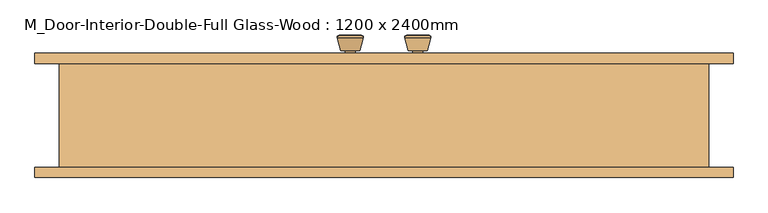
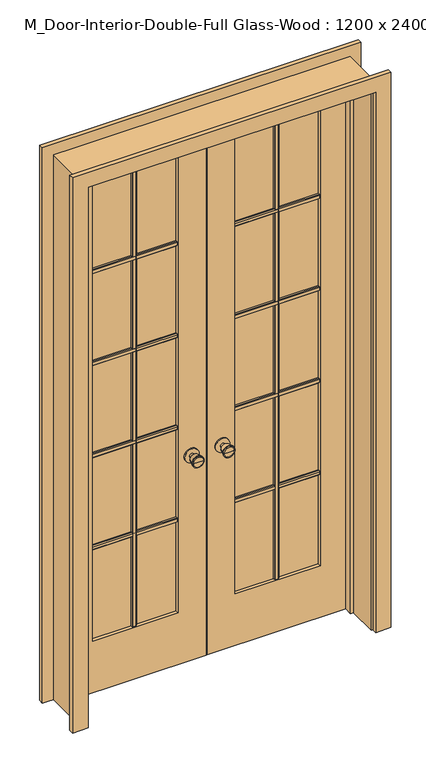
"""IFC4 building model written with IfcOpenShell, lengths in millimetres: door geometry, M_Door-Interior-Double-Full Glass-Wood : 1200 x 2400mm."""

from ifc_helpers import new_model, si_unit, point, frame, frame_2d, origin, place, context, project, spatial, polyline, circle_curve, trimmed, segment, composite_curve, outline, extrude, faceted_brep, source, transform, mapped, element, save
from ifc_brep_helpers import plane_surface, cylinder_surface, revolved_surface, advanced_brep


def m_door_interior_double_full_glass_wood_1200_x_2400mm_8371465c(model_context):
    return source(origin(), model_context, "Body", "SolidModel", [
        advanced_brep(
        [(-65.0, 102.825, 914.4), (-75.0, 102.825, 914.4), (-55.0, 102.825, 914.4), (-85.4758676, 151.825, 914.4), (-65.0, 151.825, 914.4), (-44.5241324, 151.825, 914.4), (-90.0, 149.9971319, 914.4), (-40.0, 149.9971319, 914.4), (-90.0, 146.5334537, 914.4), (-40.0, 146.5334537, 914.4), (-83.636236, 121.825, 914.4), (-46.363764, 121.825, 914.4), (-75.0, 121.825, 914.4), (-55.0, 121.825, 914.4)],
        [
            (0, 1),
            (1, 2, circle_curve(frame((-65.0, 102.825, 914.4), z_axis=(0.0, -1.0, 0.0), x_axis=(1.0, 0.0, 0.0)), 10.0)),
            (2, 0),
            (2, 1, circle_curve(frame((-65.0, 102.825, 914.4), z_axis=(0.0, -1.0, 0.0), x_axis=(1.0, 0.0, 0.0)), 10.0)),
            (3, 4),
            (4, 5),
            (5, 3, circle_curve(frame((-65.0, 151.825, 914.4), z_axis=(0.0, 1.0, 0.0), x_axis=(1.0, 0.0, 0.0)), 20.4758676)),
            (3, 5, circle_curve(frame((-65.0, 151.825, 914.4), z_axis=(0.0, 1.0, 0.0), x_axis=(1.0, 0.0, 0.0)), 20.4758676)),
            (6, 3),
            (5, 7),
            (7, 6, circle_curve(frame((-65.0, 149.9971319, 914.4), z_axis=(0.0, 1.0, 0.0), x_axis=(1.0, 0.0, 0.0)), 25.0)),
            (6, 7, circle_curve(frame((-65.0, 149.9971319, 914.4), z_axis=(0.0, 1.0, 0.0), x_axis=(1.0, 0.0, 0.0)), 25.0)),
            (8, 6),
            (7, 9),
            (9, 8, circle_curve(frame((-65.0, 146.5334537, 914.4), z_axis=(0.0, 1.0, 0.0), x_axis=(1.0, 0.0, 0.0)), 25.0)),
            (8, 9, circle_curve(frame((-65.0, 146.5334537, 914.4), z_axis=(0.0, 1.0, 0.0), x_axis=(1.0, 0.0, 0.0)), 25.0)),
            (10, 8),
            (9, 11),
            (11, 10, circle_curve(frame((-65.0, 121.825, 914.4), z_axis=(0.0, 1.0, 0.0), x_axis=(1.0, 0.0, 0.0)), 18.636236)),
            (10, 11, circle_curve(frame((-65.0, 121.825, 914.4), z_axis=(0.0, 1.0, 0.0), x_axis=(1.0, 0.0, 0.0)), 18.636236)),
            (12, 10),
            (11, 13),
            (13, 12, circle_curve(frame((-65.0, 121.825, 914.4), z_axis=(0.0, 1.0, 0.0), x_axis=(1.0, 0.0, 0.0)), 10.0)),
            (12, 13, circle_curve(frame((-65.0, 121.825, 914.4), z_axis=(0.0, 1.0, 0.0), x_axis=(1.0, 0.0, 0.0)), 10.0)),
            (1, 12),
            (13, 2),
        ],
        [
            plane_surface(frame((-65.0, 102.825, 914.4), z_axis=(0.0, -1.0, 0.0), x_axis=(1.0, 0.0, 0.0))),
            plane_surface(frame((-65.0, 151.825, 914.4), z_axis=(0.0, 1.0, 0.0), x_axis=(1.0, 0.0, 0.0))),
            revolved_surface(polyline([(-44.5241324, 151.825, 914.4), (-40.0, 149.9971319, 914.4)]), (-65.0, 102.825, 914.4), (0.0, -1.0, 0.0)),
            cylinder_surface(frame((-65.0, 102.825, 914.4), z_axis=(0.0, -1.0, 0.0), x_axis=(1.0, 0.0, 0.0)), 25.0),
            revolved_surface(polyline([(-40.0, 146.5334537, 914.4), (-46.363764, 121.825, 914.4)]), (-65.0, 102.825, 914.4), (0.0, -1.0, 0.0)),
            plane_surface(frame((-65.0, 121.825, 914.4), z_axis=(0.0, -1.0, 0.0), x_axis=(1.0, 0.0, 0.0))),
            cylinder_surface(frame((-65.0, 102.825, 914.4), z_axis=(0.0, -1.0, 0.0), x_axis=(1.0, 0.0, 0.0)), 10.0),
        ],
        [
            (0, [[1, 2, 3]]),
            (0, [[-3, 4, -1]]),
            (1, [[5, 6, 7]]),
            (1, [[-6, -5, 8]]),
            (2, [[9, -7, 10, 11]]),
            (2, [[-10, -8, -9, 12]]),
            (3, [[13, -11, 14, 15]]),
            (3, [[-14, -12, -13, 16]]),
            (4, [[17, -15, 18, 19]]),
            (4, [[-18, -16, -17, 20]]),
            (5, [[21, -19, 22, 23]]),
            (5, [[-22, -20, -21, 24]]),
            (6, [[25, -23, 26, -2]]),
            (6, [[-26, -24, -25, -4]]),
        ],
    ),
        extrude(outline(composite_curve([segment(trimmed(circle_curve(frame_2d((914.4, -65.0)), 30.0), [point((914.4, -35.0))], [point((914.4, -95.0))], False, "CARTESIAN"), True, "CONTINUOUS"), segment(trimmed(circle_curve(frame_2d((914.4, -65.0)), 30.0), [point((914.4, -95.0))], [point((914.4, -35.0))], False, "CARTESIAN"), True, "CONTINUOUS")], self_intersect=False)), frame((0.0, 96.825, 0.0), z_axis=(0.0, 1.0, 0.0), x_axis=(0.0, 0.0, 1.0)), (0.0, 0.0, 1.0), 6.0),
        advanced_brep(
        [(-65.0, 55.825, 914.4), (-55.0, 55.825, 914.4), (-75.0, 55.825, 914.4), (-85.4758676, 6.825, 914.4), (-44.5241324, 6.825, 914.4), (-65.0, 6.825, 914.4), (-90.0, 8.6528681, 914.4), (-40.0, 8.6528681, 914.4), (-90.0, 12.1165463, 914.4), (-40.0, 12.1165463, 914.4), (-83.636236, 36.825, 914.4), (-46.363764, 36.825, 914.4), (-75.0, 36.825, 914.4), (-55.0, 36.825, 914.4)],
        [
            (0, 1),
            (1, 2, circle_curve(frame((-65.0, 55.825, 914.4), z_axis=(0.0, 1.0, 0.0), x_axis=(1.0, 0.0, 0.0)), 10.0)),
            (2, 0),
            (2, 1, circle_curve(frame((-65.0, 55.825, 914.4), z_axis=(0.0, 1.0, 0.0), x_axis=(1.0, 0.0, 0.0)), 10.0)),
            (3, 4, circle_curve(frame((-65.0, 6.825, 914.4), z_axis=(0.0, -1.0, 0.0), x_axis=(1.0, 0.0, 0.0)), 20.4758676)),
            (4, 5),
            (5, 3),
            (4, 3, circle_curve(frame((-65.0, 6.825, 914.4), z_axis=(0.0, -1.0, 0.0), x_axis=(1.0, 0.0, 0.0)), 20.4758676)),
            (6, 7, circle_curve(frame((-65.0, 8.6528681, 914.4), z_axis=(0.0, -1.0, 0.0), x_axis=(1.0, 0.0, 0.0)), 25.0)),
            (7, 4),
            (3, 6),
            (7, 6, circle_curve(frame((-65.0, 8.6528681, 914.4), z_axis=(0.0, -1.0, 0.0), x_axis=(1.0, 0.0, 0.0)), 25.0)),
            (8, 9, circle_curve(frame((-65.0, 12.1165463, 914.4), z_axis=(0.0, -1.0, 0.0), x_axis=(1.0, 0.0, 0.0)), 25.0)),
            (9, 7),
            (6, 8),
            (9, 8, circle_curve(frame((-65.0, 12.1165463, 914.4), z_axis=(0.0, -1.0, 0.0), x_axis=(1.0, 0.0, 0.0)), 25.0)),
            (10, 11, circle_curve(frame((-65.0, 36.825, 914.4), z_axis=(0.0, -1.0, 0.0), x_axis=(1.0, 0.0, 0.0)), 18.636236)),
            (11, 9),
            (8, 10),
            (11, 10, circle_curve(frame((-65.0, 36.825, 914.4), z_axis=(0.0, -1.0, 0.0), x_axis=(1.0, 0.0, 0.0)), 18.636236)),
            (12, 13, circle_curve(frame((-65.0, 36.825, 914.4), z_axis=(0.0, -1.0, 0.0), x_axis=(1.0, 0.0, 0.0)), 10.0)),
            (13, 11),
            (10, 12),
            (13, 12, circle_curve(frame((-65.0, 36.825, 914.4), z_axis=(0.0, -1.0, 0.0), x_axis=(1.0, 0.0, 0.0)), 10.0)),
            (1, 13),
            (12, 2),
        ],
        [
            plane_surface(frame((-65.0, 55.825, 914.4), z_axis=(0.0, 1.0, 0.0), x_axis=(1.0, 0.0, 0.0))),
            plane_surface(frame((-65.0, 6.825, 914.4), z_axis=(0.0, -1.0, 0.0), x_axis=(1.0, 0.0, 0.0))),
            revolved_surface(polyline([(-44.5241324, 6.825, 914.4), (-40.0, 8.6528681, 914.4)]), (-65.0, 55.825, 914.4), (0.0, 1.0, 0.0)),
            cylinder_surface(frame((-65.0, 55.825, 914.4), z_axis=(0.0, 1.0, 0.0), x_axis=(1.0, 0.0, 0.0)), 25.0),
            revolved_surface(polyline([(-40.0, 12.1165463, 914.4), (-46.363764, 36.825, 914.4)]), (-65.0, 55.825, 914.4), (0.0, 1.0, 0.0)),
            plane_surface(frame((-65.0, 36.825, 914.4), z_axis=(0.0, 1.0, 0.0), x_axis=(1.0, 0.0, 0.0))),
            cylinder_surface(frame((-65.0, 55.825, 914.4), z_axis=(0.0, 1.0, 0.0), x_axis=(1.0, 0.0, 0.0)), 10.0),
        ],
        [
            (0, [[1, 2, 3]]),
            (0, [[-3, 4, -1]]),
            (1, [[5, 6, 7]]),
            (1, [[8, -7, -6]]),
            (2, [[9, 10, -5, 11]]),
            (2, [[12, -11, -8, -10]]),
            (3, [[13, 14, -9, 15]]),
            (3, [[16, -15, -12, -14]]),
            (4, [[17, 18, -13, 19]]),
            (4, [[20, -19, -16, -18]]),
            (5, [[21, 22, -17, 23]]),
            (5, [[24, -23, -20, -22]]),
            (6, [[-2, 25, -21, 26]]),
            (6, [[-4, -26, -24, -25]]),
        ],
    ),
        extrude(outline(composite_curve([segment(trimmed(circle_curve(frame_2d((914.4, -65.0)), 30.0), [point((914.4, -35.0))], [point((914.4, -95.0))], False, "CARTESIAN"), True, "CONTINUOUS"), segment(trimmed(circle_curve(frame_2d((914.4, -65.0)), 30.0), [point((914.4, -95.0))], [point((914.4, -35.0))], False, "CARTESIAN"), True, "CONTINUOUS")], self_intersect=False)), frame((0.0, 55.825, 0.0), z_axis=(0.0, 1.0, 0.0), x_axis=(0.0, 0.0, 1.0)), (0.0, 0.0, 1.0), 6.0),
        extrude(outline(polyline([(75.825, 1879.525), (75.825, 1860.475), (69.475, 1860.475), (66.3, 1863.65), (66.3, 1876.35), (69.475, 1879.525), (75.825, 1879.525)])), frame((120.0, 0.0, 0.0), z_axis=(1.0, 0.0, 0.0), x_axis=(0.0, 1.0, 0.0)), (0.0, 0.0, 1.0), 360.0),
        extrude(outline(polyline([(75.825, 1469.525), (75.825, 1450.475), (69.475, 1450.475), (66.3, 1453.65), (66.3, 1466.35), (69.475, 1469.525), (75.825, 1469.525)])), frame((120.0, 0.0, 0.0), z_axis=(1.0, 0.0, 0.0), x_axis=(0.0, 1.0, 0.0)), (0.0, 0.0, 1.0), 360.0),
        extrude(outline(polyline([(75.825, 1059.525), (75.825, 1040.475), (69.475, 1040.475), (66.3, 1043.65), (66.3, 1056.35), (69.475, 1059.525), (75.825, 1059.525)])), frame((120.0, 0.0, 0.0), z_axis=(1.0, 0.0, 0.0), x_axis=(0.0, 1.0, 0.0)), (0.0, 0.0, 1.0), 360.0),
        extrude(outline(polyline([(290.475, 75.825), (309.525, 75.825), (309.525, 69.475), (306.35, 66.3), (293.65, 66.3), (290.475, 69.475), (290.475, 75.825)])), frame((0.0, 0.0, 230.0), z_axis=(0.0, 0.0, 1.0), x_axis=(1.0, 0.0, 0.0)), (0.0, 0.0, 1.0), 2050.0),
        extrude(outline(polyline([(75.825, 649.525), (75.825, 630.475), (69.475, 630.475), (66.3, 633.65), (66.3, 646.35), (69.475, 649.525), (75.825, 649.525)])), frame((120.0, 0.0, 0.0), z_axis=(1.0, 0.0, 0.0), x_axis=(0.0, 1.0, 0.0)), (0.0, 0.0, 1.0), 360.0),
        extrude(outline(polyline([(82.825, 1879.525), (89.175, 1879.525), (92.35, 1876.35), (92.35, 1863.65), (89.175, 1860.475), (82.825, 1860.475), (82.825, 1879.525)])), frame((-480.0, 0.0, 0.0), z_axis=(1.0, 0.0, 0.0), x_axis=(0.0, 1.0, 0.0)), (0.0, 0.0, 1.0), 360.0),
        extrude(outline(polyline([(82.825, 1469.525), (89.175, 1469.525), (92.35, 1466.35), (92.35, 1453.65), (89.175, 1450.475), (82.825, 1450.475), (82.825, 1469.525)])), frame((-480.0, 0.0, 0.0), z_axis=(1.0, 0.0, 0.0), x_axis=(0.0, 1.0, 0.0)), (0.0, 0.0, 1.0), 360.0),
        extrude(outline(polyline([(82.825, 1059.525), (89.175, 1059.525), (92.35, 1056.35), (92.35, 1043.65), (89.175, 1040.475), (82.825, 1040.475), (82.825, 1059.525)])), frame((-480.0, 0.0, 0.0), z_axis=(1.0, 0.0, 0.0), x_axis=(0.0, 1.0, 0.0)), (0.0, 0.0, 1.0), 360.0),
        extrude(outline(polyline([(-309.525, 82.825), (-309.525, 89.175), (-306.35, 92.35), (-293.65, 92.35), (-290.475, 89.175), (-290.475, 82.825), (-309.525, 82.825)])), frame((0.0, 0.0, 230.0), z_axis=(0.0, 0.0, 1.0), x_axis=(1.0, 0.0, 0.0)), (0.0, 0.0, 1.0), 2050.0),
        extrude(outline(polyline([(82.825, 649.525), (89.175, 649.525), (92.35, 646.35), (92.35, 633.65), (89.175, 630.475), (82.825, 630.475), (82.825, 649.525)])), frame((-480.0, 0.0, 0.0), z_axis=(1.0, 0.0, 0.0), x_axis=(0.0, 1.0, 0.0)), (0.0, 0.0, 1.0), 360.0),
        extrude(outline(polyline([(82.825, 1879.525), (89.175, 1879.525), (92.35, 1876.35), (92.35, 1863.65), (89.175, 1860.475), (82.825, 1860.475), (82.825, 1879.525)])), frame((120.0, 0.0, 0.0), z_axis=(1.0, 0.0, 0.0), x_axis=(0.0, 1.0, 0.0)), (0.0, 0.0, 1.0), 360.0),
        extrude(outline(polyline([(82.825, 1469.525), (89.175, 1469.525), (92.35, 1466.35), (92.35, 1453.65), (89.175, 1450.475), (82.825, 1450.475), (82.825, 1469.525)])), frame((120.0, 0.0, 0.0), z_axis=(1.0, 0.0, 0.0), x_axis=(0.0, 1.0, 0.0)), (0.0, 0.0, 1.0), 360.0),
        extrude(outline(polyline([(82.825, 1059.525), (89.175, 1059.525), (92.35, 1056.35), (92.35, 1043.65), (89.175, 1040.475), (82.825, 1040.475), (82.825, 1059.525)])), frame((120.0, 0.0, 0.0), z_axis=(1.0, 0.0, 0.0), x_axis=(0.0, 1.0, 0.0)), (0.0, 0.0, 1.0), 360.0),
        extrude(outline(polyline([(290.475, 82.825), (290.475, 89.175), (293.65, 92.35), (306.35, 92.35), (309.525, 89.175), (309.525, 82.825), (290.475, 82.825)])), frame((0.0, 0.0, 230.0), z_axis=(0.0, 0.0, 1.0), x_axis=(1.0, 0.0, 0.0)), (0.0, 0.0, 1.0), 2050.0),
        extrude(outline(polyline([(82.825, 649.525), (89.175, 649.525), (92.35, 646.35), (92.35, 633.65), (89.175, 630.475), (82.825, 630.475), (82.825, 649.525)])), frame((120.0, 0.0, 0.0), z_axis=(1.0, 0.0, 0.0), x_axis=(0.0, 1.0, 0.0)), (0.0, 0.0, 1.0), 360.0),
        extrude(outline(polyline([(75.825, 1879.525), (75.825, 1860.475), (69.475, 1860.475), (66.3, 1863.65), (66.3, 1876.35), (69.475, 1879.525), (75.825, 1879.525)])), frame((-480.0, 0.0, 0.0), z_axis=(1.0, 0.0, 0.0), x_axis=(0.0, 1.0, 0.0)), (0.0, 0.0, 1.0), 360.0),
        extrude(outline(polyline([(75.825, 1469.525), (75.825, 1450.475), (69.475, 1450.475), (66.3, 1453.65), (66.3, 1466.35), (69.475, 1469.525), (75.825, 1469.525)])), frame((-480.0, 0.0, 0.0), z_axis=(1.0, 0.0, 0.0), x_axis=(0.0, 1.0, 0.0)), (0.0, 0.0, 1.0), 360.0),
        extrude(outline(polyline([(75.825, 1059.525), (75.825, 1040.475), (69.475, 1040.475), (66.3, 1043.65), (66.3, 1056.35), (69.475, 1059.525), (75.825, 1059.525)])), frame((-480.0, 0.0, 0.0), z_axis=(1.0, 0.0, 0.0), x_axis=(0.0, 1.0, 0.0)), (0.0, 0.0, 1.0), 360.0),
        extrude(outline(polyline([(-309.525, 75.825), (-290.475, 75.825), (-290.475, 69.475), (-293.65, 66.3), (-306.35, 66.3), (-309.525, 69.475), (-309.525, 75.825)])), frame((0.0, 0.0, 230.0), z_axis=(0.0, 0.0, 1.0), x_axis=(1.0, 0.0, 0.0)), (0.0, 0.0, 1.0), 2050.0),
        extrude(outline(polyline([(75.825, 649.525), (75.825, 630.475), (69.475, 630.475), (66.3, 633.65), (66.3, 646.35), (69.475, 649.525), (75.825, 649.525)])), frame((-480.0, 0.0, 0.0), z_axis=(1.0, 0.0, 0.0), x_axis=(0.0, 1.0, 0.0)), (0.0, 0.0, 1.0), 360.0),
        advanced_brep(
        [(65.0, 55.825, 914.4), (75.0, 55.825, 914.4), (55.0, 55.825, 914.4), (85.4758676, 6.825, 914.4), (65.0, 6.825, 914.4), (44.5241324, 6.825, 914.4), (90.0, 8.6528681, 914.4), (40.0, 8.6528681, 914.4), (90.0, 12.1165463, 914.4), (40.0, 12.1165463, 914.4), (83.636236, 36.825, 914.4), (46.363764, 36.825, 914.4), (75.0, 36.825, 914.4), (55.0, 36.825, 914.4)],
        [
            (0, 1),
            (1, 2, circle_curve(frame((65.0, 55.825, 914.4), z_axis=(0.0, 1.0, 0.0), x_axis=(-1.0, 0.0, 0.0)), 10.0)),
            (2, 0),
            (2, 1, circle_curve(frame((65.0, 55.825, 914.4), z_axis=(0.0, 1.0, 0.0), x_axis=(-1.0, 0.0, 0.0)), 10.0)),
            (3, 4),
            (4, 5),
            (5, 3, circle_curve(frame((65.0, 6.825, 914.4), z_axis=(0.0, -1.0, 0.0), x_axis=(-1.0, 0.0, 0.0)), 20.4758676)),
            (3, 5, circle_curve(frame((65.0, 6.825, 914.4), z_axis=(0.0, -1.0, 0.0), x_axis=(-1.0, 0.0, 0.0)), 20.4758676)),
            (6, 3),
            (5, 7),
            (7, 6, circle_curve(frame((65.0, 8.6528681, 914.4), z_axis=(0.0, -1.0, 0.0), x_axis=(-1.0, 0.0, 0.0)), 25.0)),
            (6, 7, circle_curve(frame((65.0, 8.6528681, 914.4), z_axis=(0.0, -1.0, 0.0), x_axis=(-1.0, 0.0, 0.0)), 25.0)),
            (8, 6),
            (7, 9),
            (9, 8, circle_curve(frame((65.0, 12.1165463, 914.4), z_axis=(0.0, -1.0, 0.0), x_axis=(-1.0, 0.0, 0.0)), 25.0)),
            (8, 9, circle_curve(frame((65.0, 12.1165463, 914.4), z_axis=(0.0, -1.0, 0.0), x_axis=(-1.0, 0.0, 0.0)), 25.0)),
            (10, 8),
            (9, 11),
            (11, 10, circle_curve(frame((65.0, 36.825, 914.4), z_axis=(0.0, -1.0, 0.0), x_axis=(-1.0, 0.0, 0.0)), 18.636236)),
            (10, 11, circle_curve(frame((65.0, 36.825, 914.4), z_axis=(0.0, -1.0, 0.0), x_axis=(-1.0, 0.0, 0.0)), 18.636236)),
            (12, 10),
            (11, 13),
            (13, 12, circle_curve(frame((65.0, 36.825, 914.4), z_axis=(0.0, -1.0, 0.0), x_axis=(-1.0, 0.0, 0.0)), 10.0)),
            (12, 13, circle_curve(frame((65.0, 36.825, 914.4), z_axis=(0.0, -1.0, 0.0), x_axis=(-1.0, 0.0, 0.0)), 10.0)),
            (1, 12),
            (13, 2),
        ],
        [
            plane_surface(frame((65.0, 55.825, 914.4), z_axis=(0.0, 1.0, 0.0), x_axis=(-1.0, 0.0, 0.0))),
            plane_surface(frame((65.0, 6.825, 914.4), z_axis=(0.0, -1.0, 0.0), x_axis=(-1.0, 0.0, 0.0))),
            revolved_surface(polyline([(44.5241324, 6.825, 914.4), (40.0, 8.6528681, 914.4)]), (65.0, 55.825, 914.4), (0.0, 1.0, 0.0)),
            cylinder_surface(frame((65.0, 55.825, 914.4), z_axis=(0.0, 1.0, 0.0), x_axis=(-1.0, 0.0, 0.0)), 25.0),
            revolved_surface(polyline([(40.0, 12.1165463, 914.4), (46.363764, 36.825, 914.4)]), (65.0, 55.825, 914.4), (0.0, 1.0, 0.0)),
            plane_surface(frame((65.0, 36.825, 914.4), z_axis=(0.0, 1.0, 0.0), x_axis=(-1.0, 0.0, 0.0))),
            cylinder_surface(frame((65.0, 55.825, 914.4), z_axis=(0.0, 1.0, 0.0), x_axis=(-1.0, 0.0, 0.0)), 10.0),
        ],
        [
            (0, [[1, 2, 3]]),
            (0, [[-3, 4, -1]]),
            (1, [[5, 6, 7]]),
            (1, [[-6, -5, 8]]),
            (2, [[9, -7, 10, 11]]),
            (2, [[-10, -8, -9, 12]]),
            (3, [[13, -11, 14, 15]]),
            (3, [[-14, -12, -13, 16]]),
            (4, [[17, -15, 18, 19]]),
            (4, [[-18, -16, -17, 20]]),
            (5, [[21, -19, 22, 23]]),
            (5, [[-22, -20, -21, 24]]),
            (6, [[25, -23, 26, -2]]),
            (6, [[-26, -24, -25, -4]]),
        ],
    ),
        extrude(outline(composite_curve([segment(trimmed(circle_curve(frame_2d((914.4, 65.0)), 30.0), [point((914.4, 35.0))], [point((914.4, 95.0))], False, "CARTESIAN"), True, "CONTINUOUS"), segment(trimmed(circle_curve(frame_2d((914.4, 65.0)), 30.0), [point((914.4, 95.0))], [point((914.4, 35.0))], False, "CARTESIAN"), True, "CONTINUOUS")], self_intersect=False)), frame((0.0, 55.825, 0.0), z_axis=(0.0, 1.0, 0.0), x_axis=(0.0, 0.0, 1.0)), (0.0, 0.0, 1.0), 6.0),
        advanced_brep(
        [(65.0, 102.825, 914.4), (55.0, 102.825, 914.4), (75.0, 102.825, 914.4), (85.4758676, 151.825, 914.4), (44.5241324, 151.825, 914.4), (65.0, 151.825, 914.4), (90.0, 149.9971319, 914.4), (40.0, 149.9971319, 914.4), (90.0, 146.5334537, 914.4), (40.0, 146.5334537, 914.4), (83.636236, 121.825, 914.4), (46.363764, 121.825, 914.4), (75.0, 121.825, 914.4), (55.0, 121.825, 914.4)],
        [
            (0, 1),
            (1, 2, circle_curve(frame((65.0, 102.825, 914.4), z_axis=(0.0, -1.0, 0.0), x_axis=(-1.0, 0.0, 0.0)), 10.0)),
            (2, 0),
            (2, 1, circle_curve(frame((65.0, 102.825, 914.4), z_axis=(0.0, -1.0, 0.0), x_axis=(-1.0, 0.0, 0.0)), 10.0)),
            (3, 4, circle_curve(frame((65.0, 151.825, 914.4), z_axis=(0.0, 1.0, 0.0), x_axis=(-1.0, 0.0, 0.0)), 20.4758676)),
            (4, 5),
            (5, 3),
            (4, 3, circle_curve(frame((65.0, 151.825, 914.4), z_axis=(0.0, 1.0, 0.0), x_axis=(-1.0, 0.0, 0.0)), 20.4758676)),
            (6, 7, circle_curve(frame((65.0, 149.9971319, 914.4), z_axis=(0.0, 1.0, 0.0), x_axis=(-1.0, 0.0, 0.0)), 25.0)),
            (7, 4),
            (3, 6),
            (7, 6, circle_curve(frame((65.0, 149.9971319, 914.4), z_axis=(0.0, 1.0, 0.0), x_axis=(-1.0, 0.0, 0.0)), 25.0)),
            (8, 9, circle_curve(frame((65.0, 146.5334537, 914.4), z_axis=(0.0, 1.0, 0.0), x_axis=(-1.0, 0.0, 0.0)), 25.0)),
            (9, 7),
            (6, 8),
            (9, 8, circle_curve(frame((65.0, 146.5334537, 914.4), z_axis=(0.0, 1.0, 0.0), x_axis=(-1.0, 0.0, 0.0)), 25.0)),
            (10, 11, circle_curve(frame((65.0, 121.825, 914.4), z_axis=(0.0, 1.0, 0.0), x_axis=(-1.0, 0.0, 0.0)), 18.636236)),
            (11, 9),
            (8, 10),
            (11, 10, circle_curve(frame((65.0, 121.825, 914.4), z_axis=(0.0, 1.0, 0.0), x_axis=(-1.0, 0.0, 0.0)), 18.636236)),
            (12, 13, circle_curve(frame((65.0, 121.825, 914.4), z_axis=(0.0, 1.0, 0.0), x_axis=(-1.0, 0.0, 0.0)), 10.0)),
            (13, 11),
            (10, 12),
            (13, 12, circle_curve(frame((65.0, 121.825, 914.4), z_axis=(0.0, 1.0, 0.0), x_axis=(-1.0, 0.0, 0.0)), 10.0)),
            (1, 13),
            (12, 2),
        ],
        [
            plane_surface(frame((65.0, 102.825, 914.4), z_axis=(0.0, -1.0, 0.0), x_axis=(-1.0, 0.0, 0.0))),
            plane_surface(frame((65.0, 151.825, 914.4), z_axis=(0.0, 1.0, 0.0), x_axis=(-1.0, 0.0, 0.0))),
            revolved_surface(polyline([(44.5241324, 151.825, 914.4), (40.0, 149.9971319, 914.4)]), (65.0, 102.825, 914.4), (0.0, -1.0, 0.0)),
            cylinder_surface(frame((65.0, 102.825, 914.4), z_axis=(0.0, -1.0, 0.0), x_axis=(-1.0, 0.0, 0.0)), 25.0),
            revolved_surface(polyline([(40.0, 146.5334537, 914.4), (46.363764, 121.825, 914.4)]), (65.0, 102.825, 914.4), (0.0, -1.0, 0.0)),
            plane_surface(frame((65.0, 121.825, 914.4), z_axis=(0.0, -1.0, 0.0), x_axis=(-1.0, 0.0, 0.0))),
            cylinder_surface(frame((65.0, 102.825, 914.4), z_axis=(0.0, -1.0, 0.0), x_axis=(-1.0, 0.0, 0.0)), 10.0),
        ],
        [
            (0, [[1, 2, 3]]),
            (0, [[-3, 4, -1]]),
            (1, [[5, 6, 7]]),
            (1, [[8, -7, -6]]),
            (2, [[9, 10, -5, 11]]),
            (2, [[12, -11, -8, -10]]),
            (3, [[13, 14, -9, 15]]),
            (3, [[16, -15, -12, -14]]),
            (4, [[17, 18, -13, 19]]),
            (4, [[20, -19, -16, -18]]),
            (5, [[21, 22, -17, 23]]),
            (5, [[24, -23, -20, -22]]),
            (6, [[-2, 25, -21, 26]]),
            (6, [[-4, -26, -24, -25]]),
        ],
    ),
        extrude(outline(composite_curve([segment(trimmed(circle_curve(frame_2d((914.4, 65.0)), 30.0), [point((914.4, 35.0))], [point((914.4, 95.0))], False, "CARTESIAN"), True, "CONTINUOUS"), segment(trimmed(circle_curve(frame_2d((914.4, 65.0)), 30.0), [point((914.4, 95.0))], [point((914.4, 35.0))], False, "CARTESIAN"), True, "CONTINUOUS")], self_intersect=False)), frame((0.0, 96.825, 0.0), z_axis=(0.0, 1.0, 0.0), x_axis=(0.0, 0.0, 1.0)), (0.0, 0.0, 1.0), 6.0),
        extrude(outline(polyline([(0.0, 606.35), (0.0, 671.35), (2471.35, 671.35), (2471.35, -671.35), (0.0, -671.35), (0.0, -606.35), (2406.35, -606.35), (2406.35, 606.35), (0.0, 606.35)])), frame((0.0, 96.825, 0.0), z_axis=(0.0, 1.0, 0.0), x_axis=(0.0, 0.0, 1.0)), (0.0, 0.0, 1.0), 20.0),
        extrude(outline(polyline([(0.0, 606.35), (0.0, 671.35), (2471.35, 671.35), (2471.35, -671.35), (0.0, -671.35), (0.0, -606.35), (2406.35, -606.35), (2406.35, 606.35), (0.0, 606.35)])), frame((0.0, -123.175, 0.0), z_axis=(0.0, 1.0, 0.0), x_axis=(0.0, 0.0, 1.0)), (0.0, 0.0, 1.0), 20.0),
        extrude(outline(polyline([(2400.0, -600.0), (0.0, -600.0), (0.0, -1.6019111), (2400.0, -1.6019111), (2400.0, -600.0)]), holes=[polyline([(230.0, -480.0), (2280.0, -480.0), (2280.0, -120.0), (230.0, -120.0), (230.0, -480.0)])]), frame((0.0, 61.825, 0.0), z_axis=(0.0, 1.0, 0.0), x_axis=(0.0, 0.0, 1.0)), (0.0, 0.0, 1.0), 35.0),
        extrude(outline(polyline([(0.0, 600.0), (2400.0, 600.0), (2400.0, 1.5875), (0.0, 1.5875), (0.0, 600.0)]), holes=[polyline([(2280.0, 120.0), (2280.0, 480.0), (230.0, 480.0), (230.0, 120.0), (2280.0, 120.0)])]), frame((0.0, 61.825, 0.0), z_axis=(0.0, 1.0, 0.0), x_axis=(0.0, 0.0, 1.0)), (0.0, 0.0, 1.0), 35.0),
        faceted_brep([(625.0, 96.825, 0.0), (625.0, -103.175, 0.0), (600.0, -103.175, 0.0), (600.0, 26.9, 0.0), (587.3, 26.9, 0.0), (587.3, 61.825, 0.0), (600.0, 61.825, 0.0), (600.0, 96.825, 0.0), (625.0, 96.825, 2425.0), (625.0, -103.175, 2425.0), (-625.0, -103.175, 2425.0), (-625.0, -103.175, 0.0), (-600.0, -103.175, 0.0), (-600.0, -103.175, 2400.0), (600.0, -103.175, 2400.0), (600.0, 26.9, 2400.0), (-600.0, 26.9, 2400.0), (-600.0, 26.9, 0.0), (-587.3, 26.9, 0.0), (-587.3, 26.9, 2387.3), (587.3, 26.9, 2387.3), (587.3, 61.825, 2387.3), (1.5875, 61.825, 2387.3), (-1.6019111, 61.825, 2387.3), (-587.3, 61.825, 2387.3), (-587.3, 61.825, 0.0), (-600.0, 61.825, 0.0), (-600.0, 61.825, 2400.0), (-1.6019111, 61.825, 2400.0), (1.5875, 61.825, 2400.0), (600.0, 61.825, 2400.0), (600.0, 96.825, 2400.0), (1.5875, 96.825, 2400.0), (-1.6019111, 96.825, 2400.0), (-600.0, 96.825, 2400.0), (-600.0, 96.825, 0.0), (-625.0, 96.825, 0.0), (-625.0, 96.825, 2425.0)], [[[0, 1, 2, 3, 4, 5, 6, 7]], [[1, 0, 8, 9]], [[2, 1, 9, 10, 11, 12, 13, 14]], [[3, 2, 14, 15]], [[4, 3, 15, 16, 17, 18, 19, 20]], [[5, 4, 20, 21]], [[6, 5, 21, 22, 23, 24, 25, 26, 27, 28, 29, 30]], [[7, 6, 30, 31]], [[0, 7, 31, 32, 33, 34, 35, 36, 37, 8]], [[9, 8, 37, 10]], [[14, 13, 16, 15]], [[20, 19, 24, 23, 22, 21]], [[31, 30, 29, 28, 27, 34, 33, 32]], [[12, 11, 36, 35, 26, 25, 18, 17]], [[11, 10, 37, 36]], [[13, 12, 17, 16]], [[19, 18, 25, 24]], [[27, 26, 35, 34]]]),
        extrude(outline(polyline([(480.0, 75.825), (120.0, 75.825), (120.0, 82.825), (480.0, 82.825), (480.0, 75.825)])), frame((0.0, 0.0, 230.0), z_axis=(0.0, 0.0, 1.0), x_axis=(1.0, 0.0, 0.0)), (0.0, 0.0, 1.0), 2050.0),
        extrude(outline(polyline([(-120.0, 75.825), (-480.0, 75.825), (-480.0, 82.825), (-120.0, 82.825), (-120.0, 75.825)])), frame((0.0, 0.0, 230.0), z_axis=(0.0, 0.0, 1.0), x_axis=(1.0, 0.0, 0.0)), (0.0, 0.0, 1.0), 2050.0),
    ])


if __name__ == "__main__":
    model = new_model("IFC4")
    model_context = context("Model", 3, world=origin())
    ifc_project = project(units=[si_unit("LENGTHUNIT", "METRE", prefix="MILLI")], contexts=[model_context])
    site = spatial("IfcSite", under=ifc_project)
    building = spatial("IfcBuilding", under=site)
    placement = place(None, origin())
    m_door_interior_double_full_glass_wood_1200_x_2400mm_shape = m_door_interior_double_full_glass_wood_1200_x_2400mm_8371465c(model_context)
    element("IfcDoor", 1, ObjectType="M_Door-Interior-Double-Full Glass-Wood : 1200 x 2400mm", at=placement, inside=building, context=model_context, shape_type="MappedRepresentation", body=[
        mapped(m_door_interior_double_full_glass_wood_1200_x_2400mm_shape, transform((0.0, 0.0, 0.0), x_axis=(1.0, 0.0, 0.0), y_axis=(0.0, 1.0, 0.0), z_axis=(0.0, 0.0, 1.0))),
    ])
    save(model, "model.ifc")
